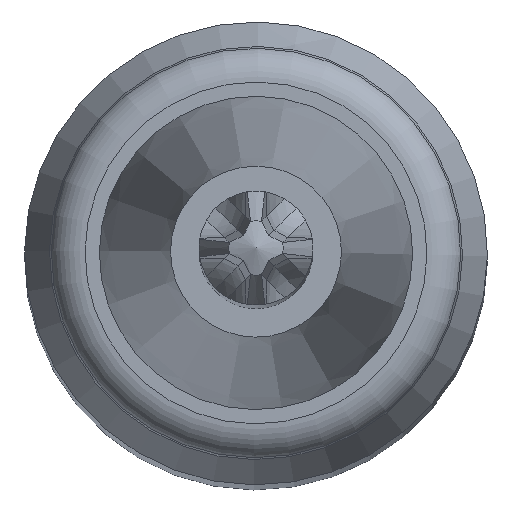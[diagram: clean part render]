
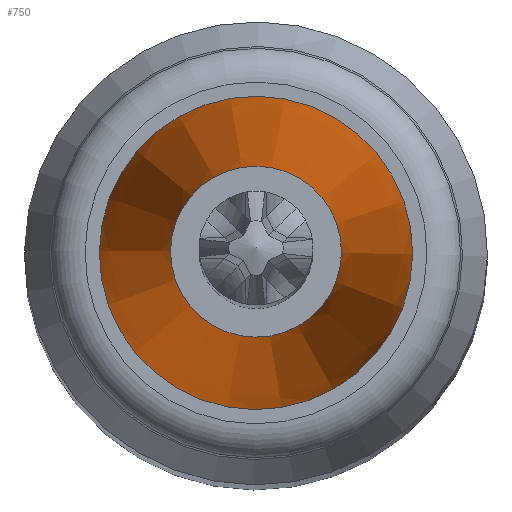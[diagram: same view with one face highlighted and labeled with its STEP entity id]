
A CAD part, top view. The second image highlights one B-rep face of the part: STEP entity #750.
In plain terms, the highlighted conical face has half-angle 5.711 degrees and reference radius 8.5 mm.
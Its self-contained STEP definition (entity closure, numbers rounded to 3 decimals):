
#31=FACE_BOUND($,#183,.T.);
#134=FACE_OUTER_BOUND($,#182,.T.);
#182=EDGE_LOOP($,(#669));
#183=EDGE_LOOP($,(#670));
#273=CIRCLE($,#833,6.);
#274=CIRCLE($,#835,11.);
#358=VERTEX_POINT($,#1436);
#359=VERTEX_POINT($,#1439);
#464=EDGE_CURVE($,#358,#358,#273,.T.);
#465=EDGE_CURVE($,#359,#359,#274,.T.);
#669=ORIENTED_EDGE($,*,*,#464,.T.);
#670=ORIENTED_EDGE($,*,*,#465,.F.);
#709=CONICAL_SURFACE($,#834,8.5,5.711);
#750=ADVANCED_FACE($,(#134,#31),#709,.T.);
#833=AXIS2_PLACEMENT_3D($,#1437,#1022,#1023);
#834=AXIS2_PLACEMENT_3D($,#1438,#1024,#1025);
#835=AXIS2_PLACEMENT_3D($,#1440,#1026,#1027);
#1022=DIRECTION('center_axis',(0.,0.,-1.));
#1023=DIRECTION('ref_axis',(1.,0.,0.));
#1024=DIRECTION('center_axis',(0.,0.,-1.));
#1025=DIRECTION('ref_axis',(0.,1.,0.));
#1026=DIRECTION('center_axis',(0.,0.,-1.));
#1027=DIRECTION('ref_axis',(1.,0.,0.));
#1436=CARTESIAN_POINT('',(0.,6.,0.));
#1437=CARTESIAN_POINT('Origin',(0.,0.,0.));
#1438=CARTESIAN_POINT('Origin',(0.,0.,-25.));
#1439=CARTESIAN_POINT('',(0.,11.,-50.));
#1440=CARTESIAN_POINT('Origin',(0.,0.,-50.));
